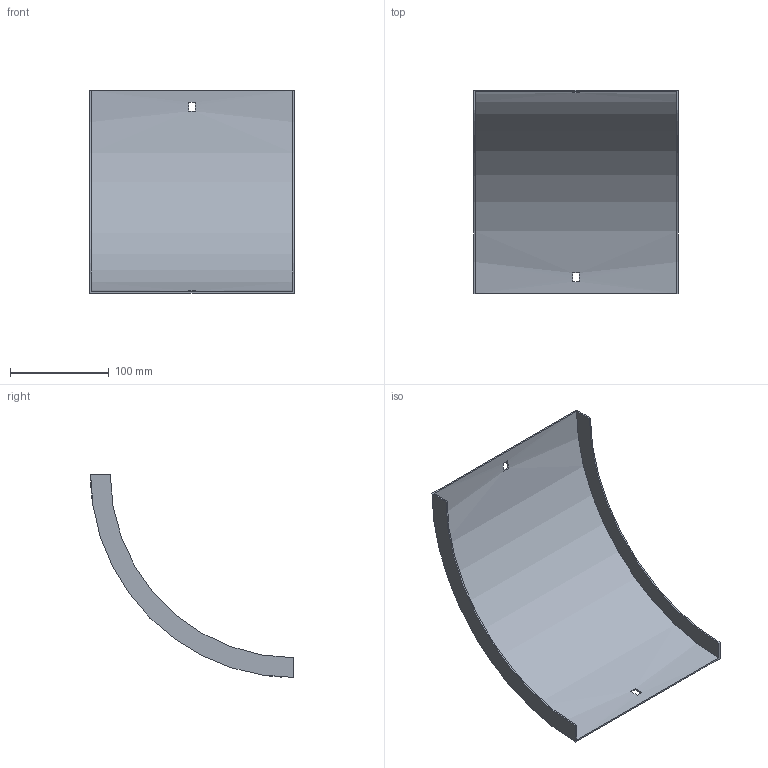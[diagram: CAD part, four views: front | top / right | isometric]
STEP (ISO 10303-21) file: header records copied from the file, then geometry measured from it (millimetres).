
FILE_DESCRIPTION (( 'STEP AP214' ), '1' );
FILE_NAME ('33N1D200.step', '2025-02-21T09:17:04', ( '' ), ( '' ), 'SwSTEP 2.0', 'SolidWorks 2023', '' );
FILE_SCHEMA (( 'AUTOMOTIVE_DESIGN' ));
Length unit declared in the file: millimetre
Products named in the file (1): 33N1D200
Bounding box: 207 x 205.5 x 205.5 mm (x, y, z)
Volume: 116665.2 mm3; surface area: 157256.7 mm2
Topology: 1 solids, 1 shells, 18 faces, 48 edges, 32 vertices
Faces by surface type: plane 14, cylinder 4
Entity records: 599 total; most frequent: DIRECTION 102, CARTESIAN_POINT 99, ORIENTED_EDGE 96, EDGE_CURVE 48, AXIS2_PLACEMENT_3D 35, LINE 32, VECTOR 32, VERTEX_POINT 32
